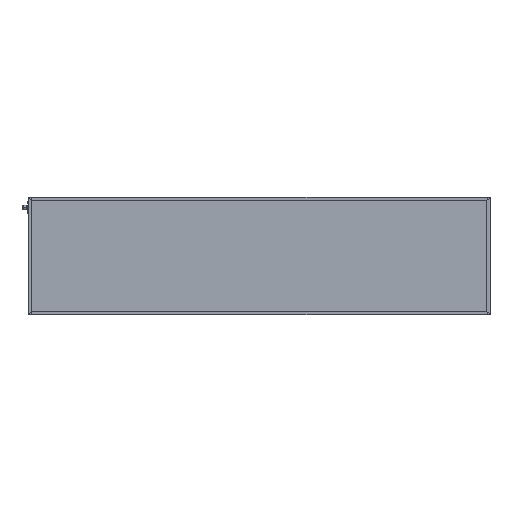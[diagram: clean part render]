
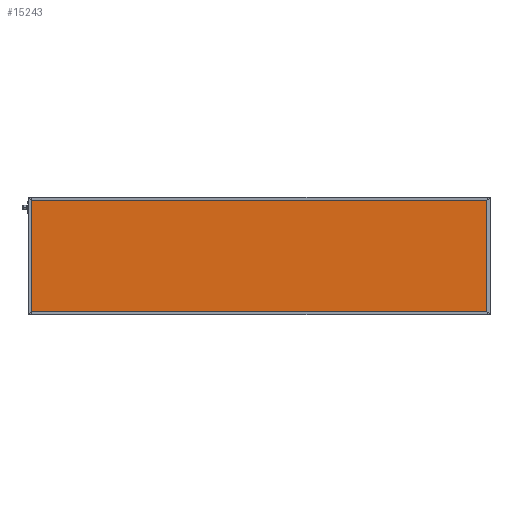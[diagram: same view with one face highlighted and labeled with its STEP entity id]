
A CAD part, top view. The second image highlights one B-rep face of the part: STEP entity #15243.
In plain terms, the highlighted planar face has unit normal (0, 0, 1).
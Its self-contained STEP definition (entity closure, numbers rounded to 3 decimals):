
#22 = DIRECTION ( 'NONE',  ( -1., 0., 0. ) ) ;
#840 = EDGE_CURVE ( 'NONE', #8504, #2813, #14485, .T. ) ;
#1217 = EDGE_CURVE ( 'NONE', #2813, #9061, #4107, .T. ) ;
#1218 = VECTOR ( 'NONE', #13379, 1000. ) ;
#1374 = ORIENTED_EDGE ( 'NONE', *, *, #1217, .T. ) ;
#2566 = CARTESIAN_POINT ( 'NONE',  ( 1196., 0., 41.85 ) ) ;
#2736 = PLANE ( 'NONE',  #3458 ) ;
#2748 = LINE ( 'NONE', #2566, #16819 ) ;
#2813 = VERTEX_POINT ( 'NONE', #4694 ) ;
#3429 = ORIENTED_EDGE ( 'NONE', *, *, #14950, .T. ) ;
#3458 = AXIS2_PLACEMENT_3D ( 'NONE', #10757, #9447, #8054 ) ;
#4107 = LINE ( 'NONE', #14463, #5772 ) ;
#4694 = CARTESIAN_POINT ( 'NONE',  ( 4., 296., 41.85 ) ) ;
#4820 = VERTEX_POINT ( 'NONE', #14386 ) ;
#5365 = CARTESIAN_POINT ( 'NONE',  ( 0., 4., 41.85 ) ) ;
#5772 = VECTOR ( 'NONE', #6716, 1000. ) ;
#5864 = CARTESIAN_POINT ( 'NONE',  ( 4., 4., 41.85 ) ) ;
#5962 = EDGE_LOOP ( 'NONE', ( #5989, #15686, #1374, #3429 ) ) ;
#5989 = ORIENTED_EDGE ( 'NONE', *, *, #13751, .T. ) ;
#6716 = DIRECTION ( 'NONE',  ( 0., -1., 0. ) ) ;
#8054 = DIRECTION ( 'NONE',  ( -1., 0., 0. ) ) ;
#8068 = DIRECTION ( 'NONE',  ( 0., 1., 0. ) ) ;
#8073 = LINE ( 'NONE', #5365, #1218 ) ;
#8504 = VERTEX_POINT ( 'NONE', #10818 ) ;
#9061 = VERTEX_POINT ( 'NONE', #5864 ) ;
#9447 = DIRECTION ( 'NONE',  ( 0., 0., -1. ) ) ;
#10757 = CARTESIAN_POINT ( 'NONE',  ( 0., 0., 41.85 ) ) ;
#10818 = CARTESIAN_POINT ( 'NONE',  ( 1196., 296., 41.85 ) ) ;
#13379 = DIRECTION ( 'NONE',  ( 1., 0., 0. ) ) ;
#13618 = FACE_OUTER_BOUND ( 'NONE', #5962, .T. ) ;
#13751 = EDGE_CURVE ( 'NONE', #4820, #8504, #2748, .T. ) ;
#13830 = VECTOR ( 'NONE', #22, 1000. ) ;
#14386 = CARTESIAN_POINT ( 'NONE',  ( 1196., 4., 41.85 ) ) ;
#14463 = CARTESIAN_POINT ( 'NONE',  ( 4., 0., 41.85 ) ) ;
#14485 = LINE ( 'NONE', #14570, #13830 ) ;
#14570 = CARTESIAN_POINT ( 'NONE',  ( 0., 296., 41.85 ) ) ;
#14950 = EDGE_CURVE ( 'NONE', #9061, #4820, #8073, .T. ) ;
#15243 = ADVANCED_FACE ( 'NONE', ( #13618 ), #2736, .F. ) ;
#15686 = ORIENTED_EDGE ( 'NONE', *, *, #840, .T. ) ;
#16819 = VECTOR ( 'NONE', #8068, 1000. ) ;
